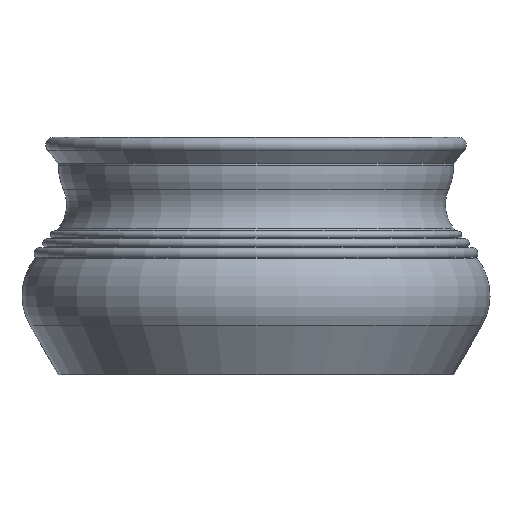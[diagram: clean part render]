
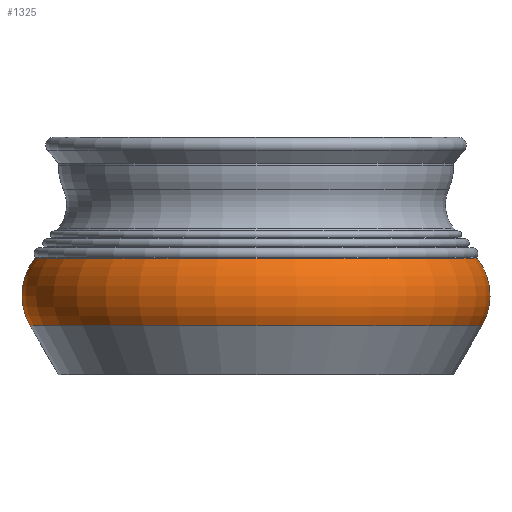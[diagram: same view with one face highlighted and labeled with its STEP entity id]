
A CAD part, front view. The second image highlights one B-rep face of the part: STEP entity #1325.
In plain terms, the highlighted toroidal (fillet/blend) face has major radius 109.901 mm and minor radius 38.099 mm.
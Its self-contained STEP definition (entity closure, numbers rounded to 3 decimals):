
#22=TOROIDAL_SURFACE('',#1505,109.901,38.099);
#166=FACE_OUTER_BOUND('',#284,.T.);
#284=EDGE_LOOP('',(#1208,#1209,#1210,#1211));
#526=CIRCLE('',#1467,142.883);
#549=CIRCLE('',#1506,139.889);
#550=CIRCLE('',#1507,38.099);
#653=VERTEX_POINT('',#2240);
#669=VERTEX_POINT('',#2303);
#818=EDGE_CURVE('',#653,#653,#526,.T.);
#849=EDGE_CURVE('',#669,#669,#549,.T.);
#850=EDGE_CURVE('',#669,#653,#550,.T.);
#1208=ORIENTED_EDGE('',*,*,#849,.F.);
#1209=ORIENTED_EDGE('',*,*,#850,.T.);
#1210=ORIENTED_EDGE('',*,*,#818,.T.);
#1211=ORIENTED_EDGE('',*,*,#850,.F.);
#1325=ADVANCED_FACE('',(#166),#22,.T.);
#1467=AXIS2_PLACEMENT_3D('',#2241,#1837,#1838);
#1505=AXIS2_PLACEMENT_3D('',#2302,#1921,#1922);
#1506=AXIS2_PLACEMENT_3D('',#2304,#1923,#1924);
#1507=AXIS2_PLACEMENT_3D('',#2305,#1925,#1926);
#1837=DIRECTION('center_axis',(0.,0.,1.));
#1838=DIRECTION('ref_axis',(1.,0.,0.));
#1921=DIRECTION('center_axis',(0.,0.,1.));
#1922=DIRECTION('ref_axis',(1.,0.,0.));
#1923=DIRECTION('center_axis',(0.,0.,1.));
#1924=DIRECTION('ref_axis',(1.,0.,0.));
#1925=DIRECTION('center_axis',(0.,-1.,0.));
#1926=DIRECTION('ref_axis',(-1.,0.,0.));
#2240=CARTESIAN_POINT('',(-142.883,0.,30.929));
#2241=CARTESIAN_POINT('Origin',(0.,0.,30.929));
#2302=CARTESIAN_POINT('Origin',(0.,0.,50.));
#2303=CARTESIAN_POINT('',(-139.889,0.,73.5));
#2304=CARTESIAN_POINT('Origin',(0.,0.,73.5));
#2305=CARTESIAN_POINT('Origin',(-109.901,0.,
50.));
